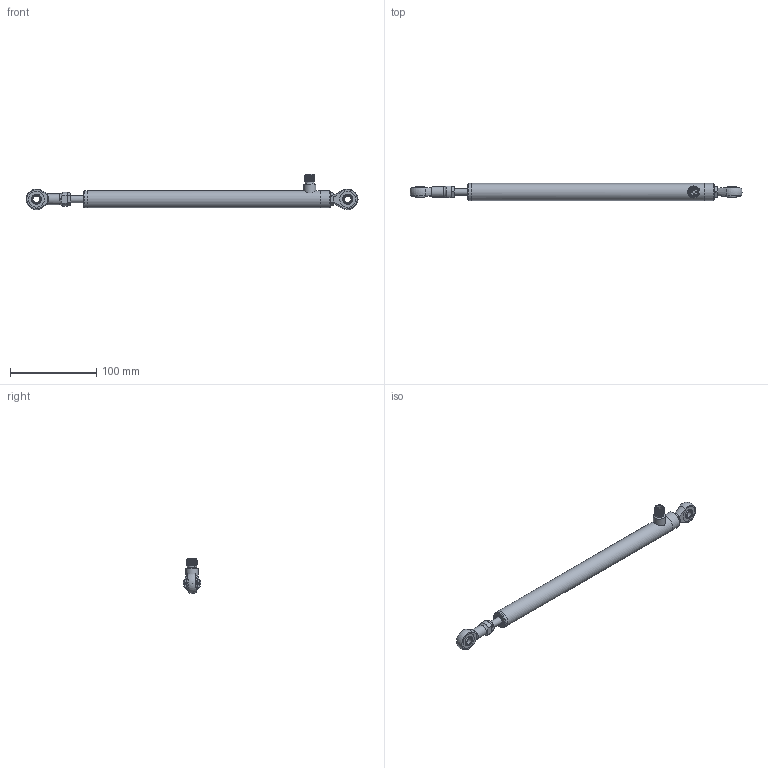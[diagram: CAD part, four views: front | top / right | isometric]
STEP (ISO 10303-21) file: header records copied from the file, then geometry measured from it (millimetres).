
FILE_DESCRIPTION( ( 'STEP AP214' ), '1' );
FILE_NAME( 'N:/Engineering/CAD_Solid/LVDT/SL/Kunden-3D-Modell/SL100-G-SR.stp', '2011-12-12T14:58:27', ( ' ' ), ( ' ' ), 'XStep 1.0', ' ', ' ' );
FILE_SCHEMA( ( 'CONFIG_CONTROL_DESIGN) ( )' ) );
Length unit declared in the file: metre
Products named in the file (9): 1; 2; 3; 4; 5; 6; 7; 8; 9
Bounding box: 386 x 20 x 40.99 mm (x, y, z)
Volume: 1908.6 mm3; surface area: 28794.1 mm2
Topology: 2 solids, 95 shells, 107 faces, 460 edges, 412 vertices
Faces by surface type: plane 43, cylinder 28, cone 25, sphere 6, bspline 4, torus 1
Full cylindrical faces by diameter (mm): 2 x4, 8 x3, 10.5 x1, 12 x1, 12.5 x1, 14 x1, 20 x3
Entity records: 9774 total; most frequent: CARTESIAN_POINT 5661, DIRECTION 683, ORIENTED_EDGE 389, EDGE_CURVE 377, VERTEX_POINT 377, AXIS2_PLACEMENT_3D 293, CIRCLE 179, EDGE_LOOP 166
